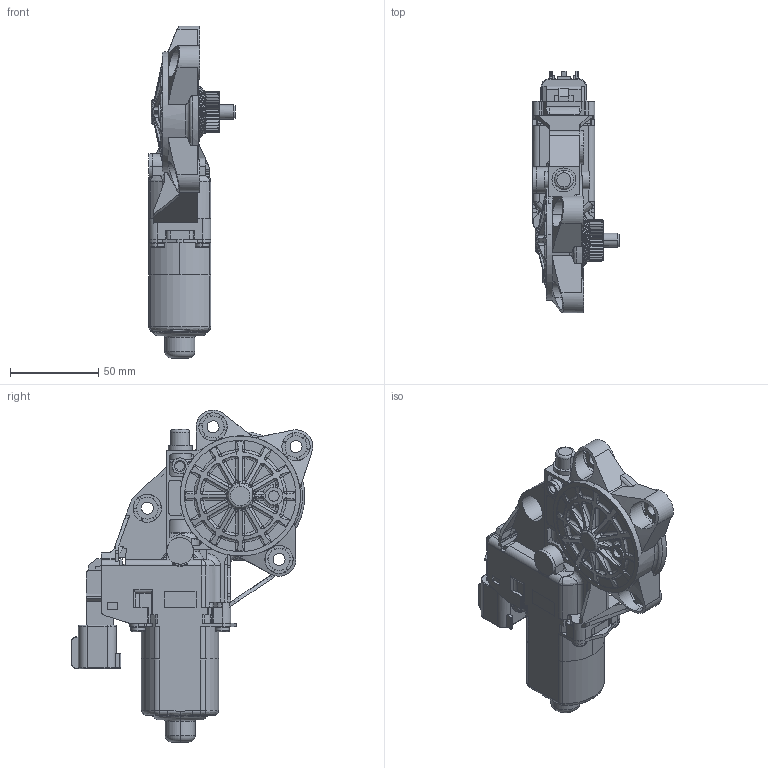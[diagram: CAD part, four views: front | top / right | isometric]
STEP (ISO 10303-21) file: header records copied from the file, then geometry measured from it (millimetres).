
FILE_DESCRIPTION(('CATIA V5 STEP Exchange'),'2;1');
FILE_NAME('E:\catcqev5\Result_Tmp\0546695\0546695~CATIAV52STEP~0130822495_AA.stp','2012-03-19T14:26:32+00:00',('none'),('none'),'CATIA Version 5 Release 19 SP 3 (IN-10)','CATIA V5 STEP AP214','none');
FILE_SCHEMA(('AUTOMOTIVE_DESIGN { 1 0 10303 214 1 1 1 1 }'));
Length unit declared in the file: millimetre
Products named in the file (1): 0130822495_AA-Katalog
Bounding box: 48.71 x 136.55 x 187.6 mm (x, y, z)
Volume: 292902.7 mm3; surface area: 63051.6 mm2
Topology: 1 solids, 3 shells, 1872 faces, 5265 edges, 3353 vertices
Faces by surface type: cylinder 747, plane 674, bspline 203, torus 152, cone 96
Entity records: 69707 total; most frequent: CARTESIAN_POINT 26983, ORIENTED_EDGE 10384, DIRECTION 6326, EDGE_CURVE 5192, VERTEX_POINT 3352, AXIS2_PLACEMENT_3D 2770, VECTOR 2284, LINE 2284
